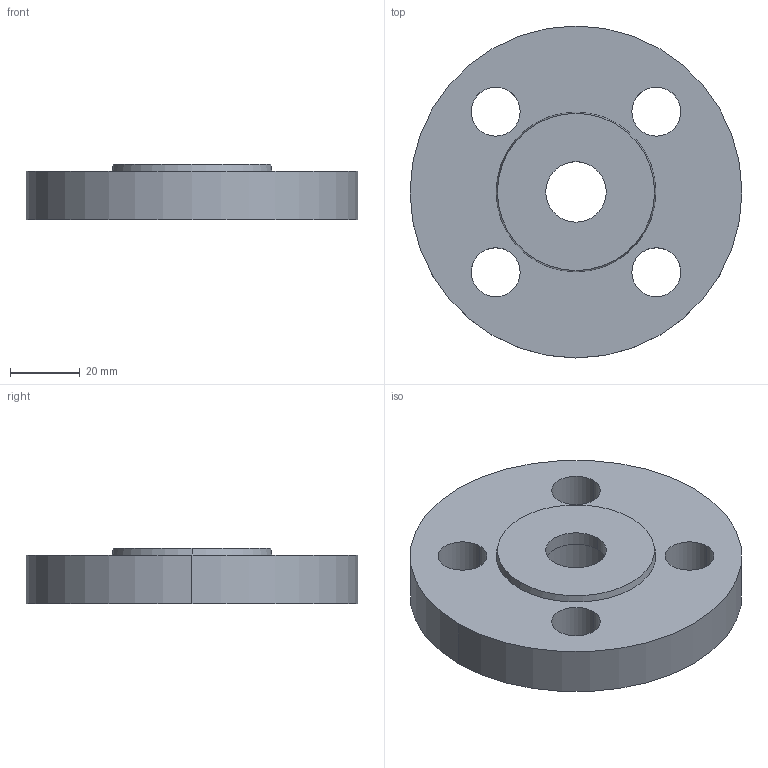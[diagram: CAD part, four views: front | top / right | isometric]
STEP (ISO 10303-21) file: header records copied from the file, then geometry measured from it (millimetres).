
FILE_DESCRIPTION (( 'STEP AP214' ), '1' );
FILE_NAME ('PN40 DN15 Type 05 - Socket (Type B) - Not in Standard.STEP', '2018-12-29T15:09:12', ( '' ), ( '' ), 'SwSTEP 2.0', 'SolidWorks 2019', '' );
FILE_SCHEMA (( 'AUTOMOTIVE_DESIGN' ));
Length unit declared in the file: millimetre
Products named in the file (1): PN40 DN15 Type 05 - Socket (Type B) - Not in Standard
Bounding box: 95 x 95 x 16 mm (x, y, z)
Volume: 88343.7 mm3; surface area: 20402 mm2
Topology: 1 solids, 1 shells, 20 faces, 48 edges, 32 vertices
Faces by surface type: cylinder 14, plane 4, cone 2
Entity records: 658 total; most frequent: DIRECTION 122, CARTESIAN_POINT 101, ORIENTED_EDGE 96, AXIS2_PLACEMENT_3D 53, EDGE_CURVE 48, CIRCLE 32, VERTEX_POINT 32, EDGE_LOOP 32
